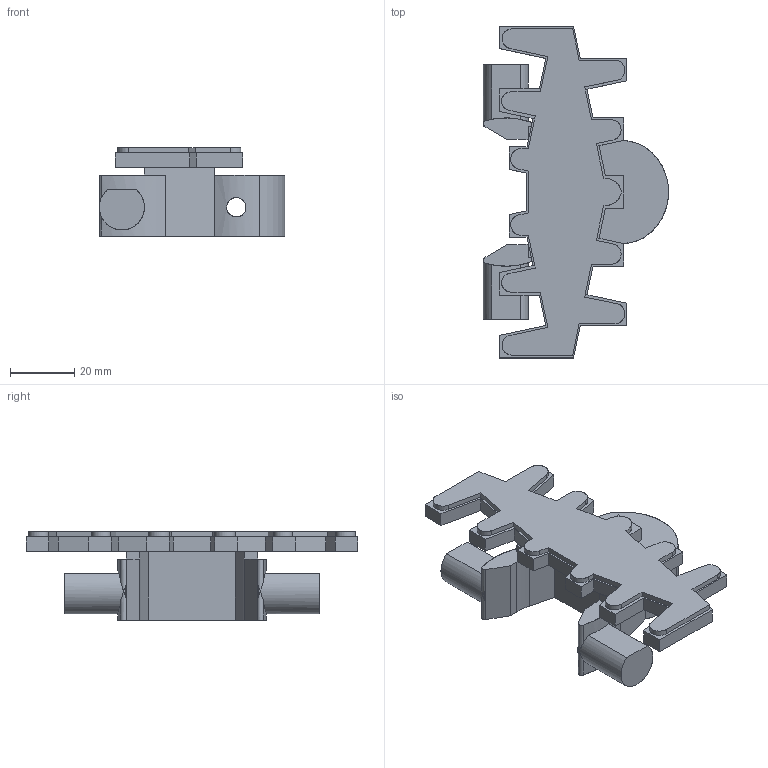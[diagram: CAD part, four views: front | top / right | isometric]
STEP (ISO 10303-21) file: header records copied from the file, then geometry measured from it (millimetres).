
FILE_DESCRIPTION (( 'STEP AP214' ), '1' );
FILE_NAME ('FCST-5.STEP', '2011-09-28T08:46:40', ( '.' ), ( '' ), 'SwSTEP 2.0', 'SolidWorks 2010', '' );
FILE_SCHEMA (( 'AUTOMOTIVE_DESIGN' ));
Length unit declared in the file: millimetre
Products named in the file (1): FCST-5
Bounding box: 57.5 x 103 x 27.5 mm (x, y, z)
Surface area: 15929.9 mm2 (no closed solid volume)
Topology: 0 solids, 131 shells, 138 faces, 768 edges, 758 vertices
Faces by surface type: plane 105, cylinder 33
Entity records: 10430 total; most frequent: CARTESIAN_POINT 4253, DIRECTION 1020, ORIENTED_EDGE 776, EDGE_CURVE 768, VERTEX_POINT 758, VECTOR 624, LINE 624, AXIS2_PLACEMENT_3D 198
